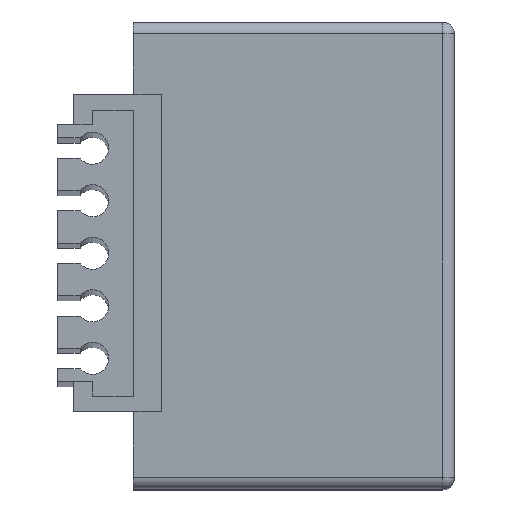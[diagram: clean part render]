
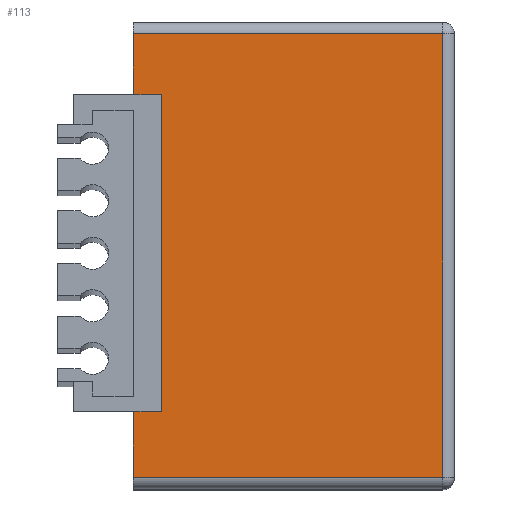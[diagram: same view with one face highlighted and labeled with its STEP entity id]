
A CAD part, top view. The second image highlights one B-rep face of the part: STEP entity #113.
In plain terms, the highlighted planar face has unit normal (0, 0, 1).
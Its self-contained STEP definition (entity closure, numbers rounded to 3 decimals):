
#113 = ADVANCED_FACE ( 'NONE', ( #172 ), #2184, .F. ) ;
#172 = FACE_OUTER_BOUND ( 'NONE', #1302, .T. ) ;
#385 = LINE ( 'NONE', #3004, #388 ) ;
#388 = VECTOR ( 'NONE', #3003, 1000. ) ;
#460 = LINE ( 'NONE', #1710, #469 ) ;
#464 = LINE ( 'NONE', #1704, #467 ) ;
#467 = VECTOR ( 'NONE', #1703, 1000. ) ;
#468 = LINE ( 'NONE', #1700, #471 ) ;
#469 = VECTOR ( 'NONE', #1702, 1000. ) ;
#471 = VECTOR ( 'NONE', #1699, 1000. ) ;
#472 = LINE ( 'NONE', #1696, #475 ) ;
#475 = VECTOR ( 'NONE', #1695, 1000. ) ;
#486 = LINE ( 'NONE', #1684, #487 ) ;
#487 = VECTOR ( 'NONE', #1693, 1000. ) ;
#637 = ORIENTED_EDGE ( 'NONE', *, *, #1019, .T. ) ;
#638 = ORIENTED_EDGE ( 'NONE', *, *, #1277, .T. ) ;
#639 = ORIENTED_EDGE ( 'NONE', *, *, #1010, .T. ) ;
#640 = ORIENTED_EDGE ( 'NONE', *, *, #1009, .T. ) ;
#641 = ORIENTED_EDGE ( 'NONE', *, *, #1011, .T. ) ;
#642 = ORIENTED_EDGE ( 'NONE', *, *, #1013, .T. ) ;
#952 = AXIS2_PLACEMENT_3D ( 'NONE', #2172, #2171, #2170 ) ;
#1009 = EDGE_CURVE ( 'NONE', #1422, #1376, #464, .T. ) ;
#1010 = EDGE_CURVE ( 'NONE', #1376, #2547, #460, .T. ) ;
#1011 = EDGE_CURVE ( 'NONE', #1411, #1422, #468, .T. ) ;
#1013 = EDGE_CURVE ( 'NONE', #1417, #1411, #472, .T. ) ;
#1019 = EDGE_CURVE ( 'NONE', #2549, #1417, #486, .T. ) ;
#1277 = EDGE_CURVE ( 'NONE', #2547, #2549, #385, .T. ) ;
#1302 = EDGE_LOOP ( 'NONE', ( #642, #641, #640, #639, #638, #637 ) ) ;
#1376 = VERTEX_POINT ( 'NONE', #2944 ) ;
#1411 = VERTEX_POINT ( 'NONE', #2874 ) ;
#1417 = VERTEX_POINT ( 'NONE', #2869 ) ;
#1422 = VERTEX_POINT ( 'NONE', #2864 ) ;
#1684 = CARTESIAN_POINT ( 'NONE',  ( -15., 80., 63. ) ) ;
#1693 = DIRECTION ( 'NONE',  ( 0., -1., 0. ) ) ;
#1695 = DIRECTION ( 'NONE',  ( 1., 0., 0. ) ) ;
#1696 = CARTESIAN_POINT ( 'NONE',  ( 95., -76., 63. ) ) ;
#1699 = DIRECTION ( 'NONE',  ( 0., 1., 0. ) ) ;
#1700 = CARTESIAN_POINT ( 'NONE',  ( 91., 76., 63. ) ) ;
#1702 = DIRECTION ( 'NONE',  ( 0., -1., 0. ) ) ;
#1703 = DIRECTION ( 'NONE',  ( -1., 0., 0. ) ) ;
#1704 = CARTESIAN_POINT ( 'NONE',  ( 95., 76., 63. ) ) ;
#1710 = CARTESIAN_POINT ( 'NONE',  ( -15., 80., 63. ) ) ;
#2170 = DIRECTION ( 'NONE',  ( 0., 1., 0. ) ) ;
#2171 = DIRECTION ( 'NONE',  ( 0., 0., -1. ) ) ;
#2172 = CARTESIAN_POINT ( 'NONE',  ( 95., 80., 63. ) ) ;
#2184 = PLANE ( 'NONE',  #952 ) ;
#2547 = VERTEX_POINT ( 'NONE', #2785 ) ;
#2549 = VERTEX_POINT ( 'NONE', #2782 ) ;
#2782 = CARTESIAN_POINT ( 'NONE',  ( -15., -49., 63. ) ) ;
#2785 = CARTESIAN_POINT ( 'NONE',  ( -15., 49., 63. ) ) ;
#2864 = CARTESIAN_POINT ( 'NONE',  ( 91., 76., 63. ) ) ;
#2869 = CARTESIAN_POINT ( 'NONE',  ( -15., -76., 63. ) ) ;
#2874 = CARTESIAN_POINT ( 'NONE',  ( 91., -76., 63. ) ) ;
#2944 = CARTESIAN_POINT ( 'NONE',  ( -15., 76., 63. ) ) ;
#3003 = DIRECTION ( 'NONE',  ( 0., -1., 0. ) ) ;
#3004 = CARTESIAN_POINT ( 'NONE',  ( -15., 80., 63. ) ) ;
